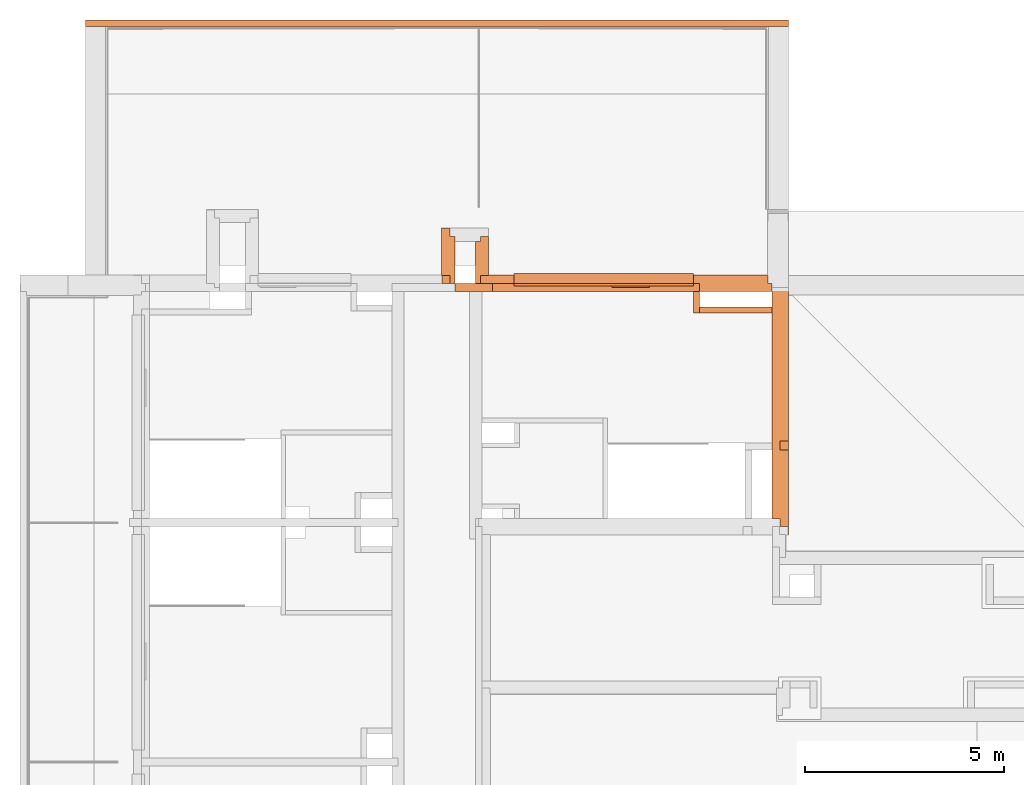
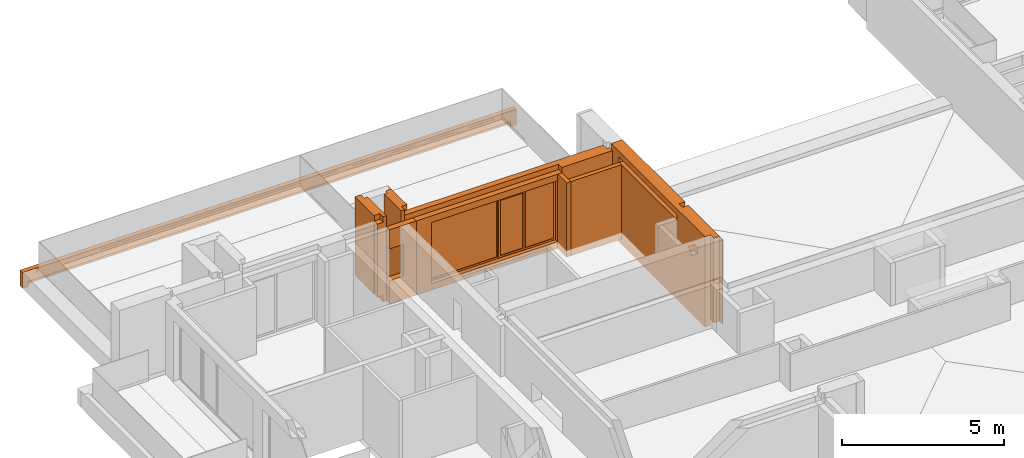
# One storey, part 24 of 30: 9 proxies, 3 openings.
"""IFC2X3 building model written with IfcOpenShell, lengths in millimetres."""

from ifc_helpers import new_model, entity, si_unit, converted_unit, derived_unit, money_unit, direction, frame, origin_with_axes, origin_2d_with_axis, place, context, subcontext, project, spatial, polyline, rectangle, outline, extrude, open_shell, faceted_brep, surface_model, material, material_list, type_object, element, fill, save


model = new_model("IFC2X3")

# Units and contexts
model_context = context("Model", 3, precision=0.01, world=origin_with_axes(), true_north=direction((0.34421633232, 0.938890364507)))
body_context = subcontext(model_context, "Body", "Model", "MODEL_VIEW")
ifc_project = project(units=[si_unit("LENGTHUNIT", "METRE", prefix="MILLI"), si_unit("AREAUNIT", "SQUARE_METRE"), si_unit("VOLUMEUNIT", "CUBIC_METRE"), converted_unit("PLANEANGLEUNIT", "DEGREE", entity("IfcPlaneAngleMeasure", 0.0174532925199), si_unit("PLANEANGLEUNIT", "RADIAN"), dimensions=[0, 0, 0, 0, 0, 0, 0]), si_unit("SOLIDANGLEUNIT", "STERADIAN"), money_unit("USD"), converted_unit("TIMEUNIT", "Year", entity("IfcTimeMeasure", 31556926.0), si_unit("TIMEUNIT", "SECOND"), dimensions=[0, 0, 1, 0, 0, 0, 0]), si_unit("MASSUNIT", "GRAM", prefix="KILO"), si_unit("THERMODYNAMICTEMPERATUREUNIT", "DEGREE_CELSIUS"), si_unit("LUMINOUSINTENSITYUNIT", "LUMEN"), si_unit("ENERGYUNIT", "JOULE", prefix="MEGA"), derived_unit("THERMALCONDUCTANCEUNIT", [(si_unit("POWERUNIT", "WATT"), 1), (si_unit("LENGTHUNIT", "METRE"), -1), (si_unit("THERMODYNAMICTEMPERATUREUNIT", "KELVIN"), -1)]), derived_unit("SPECIFICHEATCAPACITYUNIT", [(si_unit("ENERGYUNIT", "JOULE"), 1), (si_unit("MASSUNIT", "GRAM", prefix="KILO"), -1), (si_unit("THERMODYNAMICTEMPERATUREUNIT", "KELVIN"), -1)]), derived_unit("MASSDENSITYUNIT", [(si_unit("MASSUNIT", "GRAM", prefix="KILO"), 1), (si_unit("VOLUMEUNIT", "CUBIC_METRE"), -1)])], contexts=[model_context])

# Site, building, storey
site_placement = place(None, origin_with_axes())
site = spatial("IfcSite", under=ifc_project, at=site_placement, Name="USTRONIE MORSKIE", CompositionType="ELEMENT")
building_placement = place(site_placement, origin_with_axes())
building = spatial("IfcBuilding", under=site, at=building_placement, Name="Budynek", CompositionType="ELEMENT")
storey_placement = place(building_placement, frame((0.0, 0.0, 16000.0), z_axis=(0.0, 0.0, 1.0), x_axis=(1.0, 0.0, 0.0)))
storey = spatial("IfcBuildingStorey", under=building, at=storey_placement, Name="ANTRESOLA - KOND. TECHNICZNA", CompositionType="ELEMENT", Elevation=16000.0)

# Proxy
ifc_material_1 = material(Name="Beton konstrukcyjny B25")
ifc_material_2 = material(Name="Wełna ELEW")
ifc_material_3 = material(Name="Tynk zewnętrzny")
ifc_material_list_1 = material_list([ifc_material_1, ifc_material_2, ifc_material_3])
building_element_proxy_type_1 = type_object("IfcBuildingElementProxyType", Name="20+20 410", PredefinedType="NOTDEFINED")
proxy_1_placement = place(storey_placement, frame((367067.920919, 738801.199036, -360.0), z_axis=(0.0, 0.0, 1.0), x_axis=(0.0, 1.0, 0.0)))
element("IfcBuildingElementProxy", 1, at=proxy_1_placement, inside=storey, type_object=building_element_proxy_type_1, material=ifc_material_list_1, Name="SZ-01", context=body_context, shape_type="Brep", body=[
    faceted_brep([(100.0, 100.0, 0.0), (100.0, 100.0, 3410.0), (5900.0, 100.0, 3410.0), (5900.0, 100.0, 3200.0), (5800.0, 100.0, 3200.0), (5800.0, 100.0, 0.0), (1819.98043997, 100.0, 3000.0), (5400.0, 100.0, 3000.0), (5400.0, 100.0, 3200.0), (1819.98043997, 100.0, 3200.0), (100.0, -100.0, 0.0), (100.0, -100.0, 3410.0), (5900.0, -100.0, 3410.0), (5900.0, -100.0, 3200.0), (5800.0, -100.0, 3200.0), (5800.0, -100.0, 200.0), (5800.0, -100.0, 115.0), (5800.0, -100.0, 0.0), (1819.98043997, -100.0, 3000.0), (5400.0, -100.0, 3000.0), (5400.0, -100.0, 3200.0), (1819.98043997, -100.0, 3200.0)], [[[0, 1, 2, 3, 4, 5], [6, 7, 8, 9]], [[10, 11, 1, 0]], [[2, 1, 11, 12]], [[12, 13, 3, 2]], [[4, 3, 13, 14]], [[5, 4, 14, 15, 16, 17]], [[17, 10, 0, 5]], [[18, 19, 7, 6]], [[19, 20, 8, 7]], [[20, 21, 9, 8]], [[21, 18, 6, 9]], [[11, 10, 17, 16, 15, 14, 13, 12], [18, 21, 20, 19]]]),
    faceted_brep([(-100.0, -300.0, 205.0), (5800.0, -300.0, 205.0), (5800.0, -300.0, 3200.0), (5900.0, -300.0, 3200.0), (5900.0, -300.0, 3410.0), (2039.98043997, -300.0, 3410.00000179), (2039.98043997, -300.0, 3200.0), (1819.98043997, -300.0, 3200.0), (1819.98043997, -300.0, 3410.00000179), (-100.0, -300.0, 3410.0), (5800.0, -99.9999284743, 205.0), (-100.000013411, -99.9999284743, 205.0), (5800.0, -100.0, 3200.0), (5900.0, -100.0, 3200.0), (5900.0, -100.0, 3410.0), (2039.98043997, -100.0, 3410.00000179), (2039.98043997, -100.0, 3200.0), (1819.98043997, -100.0, 3200.0), (1819.98043997, -100.0, 3410.00000179), (-100.0, -100.0, 3410.0)], [[[0, 1, 2, 3, 4, 5, 6, 7, 8, 9]], [[10, 1, 0, 11]], [[1, 10, 12, 2]], [[12, 13, 3, 2]], [[4, 3, 13, 14]], [[14, 15, 5, 4]], [[16, 6, 5, 15]], [[7, 6, 16, 17]], [[17, 18, 8, 7]], [[9, 8, 18, 19]], [[11, 0, 9, 19]], [[10, 11, 19, 18, 17, 16, 15, 14, 13, 12]]]),
    faceted_brep([(-300.0, -310.0, 205.0), (5800.0, -310.0, 205.0), (5800.0, -310.0, 3200.0), (5900.0, -310.0, 3200.0), (5900.0, -310.0, 3410.0), (2049.98043997, -310.0, 3410.00000179), (2049.98043997, -310.0, 3200.0), (1819.98043997, -310.0, 3200.0), (1819.98043997, -310.0, 3410.00000179), (-300.0, -310.0, 3410.0), (5800.0, -300.0, 205.0), (-300.0, -300.0, 205.0), (5800.0, -300.0, 3200.0), (5900.0, -300.0, 3200.0), (5900.0, -300.0, 3410.0), (2049.98043997, -300.0, 3410.00000179), (2049.98043997, -300.0, 3200.0), (1819.98043997, -300.0, 3200.0), (1819.98043997, -300.0, 3410.00000179), (-300.0, -300.0, 3410.0)], [[[0, 1, 2, 3, 4, 5, 6, 7, 8, 9]], [[10, 1, 0, 11]], [[1, 10, 12, 2]], [[12, 13, 3, 2]], [[4, 3, 13, 14]], [[14, 15, 5, 4]], [[16, 6, 5, 15]], [[7, 6, 16, 17]], [[17, 18, 8, 7]], [[9, 8, 18, 19]], [[11, 0, 9, 19]], [[10, 11, 19, 18, 17, 16, 15, 14, 13, 12]]]),
])

# Proxies, openings
proxy_2_placement = place(storey_placement, frame((367067.920919, 744701.199036, -160.0), z_axis=(0.0, 0.0, 1.0), x_axis=(-1.0, 0.0, 0.0)))
proxy_2 = element("IfcBuildingElementProxy", 2, at=proxy_2_placement, inside=storey, type_object=building_element_proxy_type_1, material=ifc_material_list_1, Name="Œciana-006", context=body_context, shape_type="Brep", body=[
    faceted_brep([(7100.0, -100.000010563, 2800.0), (1910.01916964, -99.9999997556, 2800.0), (1910.01916964, -99.9999997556, 3000.0), (100.0, -100.0, 3000.0), (100.0, -100.0, 0.0), (7100.0, -100.0, 0.0), (7100.0, 100.0, 2800.0), (1910.01916964, 100.0, 2800.0), (1910.01916964, 100.0, 3000.0), (100.0, 100.0, 3000.0), (100.0, 100.0, 0.0), (7100.0, 100.0, 0.0)], [[[0, 1, 2, 3, 4, 5]], [[1, 0, 6, 7]], [[8, 2, 1, 7]], [[2, 8, 9, 3]], [[3, 9, 10, 4]], [[10, 11, 5, 4]], [[6, 0, 5, 11]], [[7, 6, 11, 10, 9, 8]]]),
    faceted_brep([(200.0, -100.0, 239.99999792), (200.0, -300.0, 239.99999792), (200.0, -300.0, 3000.0), (200.0, -100.0, 3000.0), (7410.0, -300.0, 239.99999792), (7410.0, -100.0, 239.99999792), (7410.0, -300.0, 3000.0), (7410.0, -100.0, 3000.0)], [[[0, 1, 2, 3]], [[4, 1, 0, 5]], [[1, 4, 6, 2]], [[2, 6, 7, 3]], [[5, 0, 3, 7]], [[4, 5, 7, 6]]]),
    faceted_brep([(210.0, -300.0, 239.99999792), (210.0, -310.0, 239.99999792), (210.0, -310.0, 3000.0), (210.0, -300.0, 3000.0), (7210.0, -310.0, 239.99999792), (7210.0, -300.0, 239.99999792), (7210.0, -310.0, 3000.0), (7210.0, -300.0, 3000.0)], [[[0, 1, 2, 3]], [[4, 1, 0, 5]], [[1, 4, 6, 2]], [[6, 7, 3, 2]], [[5, 0, 3, 7]], [[4, 5, 7, 6]]]),
])
opening_1_placement = place(proxy_2_placement, frame((4310.01916964, 0.0, 250.0), z_axis=(0.0, 0.0, 1.0), x_axis=(1.0, 0.0, 0.0)))
opening_1 = element("IfcOpeningElement", 3, at=opening_1_placement, cuts=proxy_2, Name="Wz.06", context=body_context, shape_type="SweptSolid", body=[
    extrude(rectangle(XDim=4500.0, YDim=2300.0, at=origin_2d_with_axis()), frame((0.0, -99.9999999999, 1150.0), z_axis=(0.0, -1.0, 0.0), x_axis=(-1.0, 0.0, 0.0)), (0.0, 0.0, 1.0), 620.0),
    extrude(rectangle(XDim=4500.0, YDim=2300.0, at=origin_2d_with_axis()), frame((0.0, -100.0, 1150.0), z_axis=(0.0, 1.0, 0.0), x_axis=(-1.0, 0.0, 0.0)), (0.0, 0.0, 1.0), 610.0),
])
opening_2_placement = place(proxy_2_placement, frame((1135.00958482, 0.0, 160.0), z_axis=(0.0, 0.0, 1.0), x_axis=(1.0, 0.0, 0.0)))
element("IfcOpeningElement", 4, at=opening_2_placement, cuts=proxy_2, Name="Okna-005", context=body_context, shape_type="SweptSolid", body=[
    extrude(outline(polyline([(-925.009584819, 0.0), (925.009584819, 0.0), (925.009584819, 2390.0), (-925.009584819, 2390.0), (-925.009584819, 0.0)])), frame((0.0, -290.0, 0.0), z_axis=(0.0, 1.0, 0.0), x_axis=(-1.0, 0.0, 0.0)), (0.0, 0.0, -1.0), 430.0),
])
building_element_proxy_type_2 = type_object("IfcBuildingElementProxyType", Name="Okno potrójne 23", PredefinedType="NOTDEFINED")
proxy_3_placement = place(opening_1_placement, frame((-2250.0, 0.0, 0.0), z_axis=(0.0, 0.0, 1.0), x_axis=(1.0, 0.0, 0.0)))
proxy_3 = element("IfcBuildingElementProxy", 5, at=proxy_3_placement, inside=storey, type_object=building_element_proxy_type_2, Name="Wz.06", context=body_context, shape_type="SurfaceModel", body=[
    faceted_brep([(4500.0, -100.0, 5.0), (4500.0, -100.0, 30.0), (4500.0, -310.0, 18.9943663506), (4500.0, -310.0, 5.0), (0.0, -100.0, 5.0), (0.0, -100.0, 30.0), (0.0, -310.0, 18.9943663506), (0.0, -340.0, 17.4221329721), (4500.0, -340.0, 17.4221329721), (4500.0, -340.0, 5.0), (0.0, -340.0, 5.0), (0.0, -310.0, 5.0)], [[[0, 1, 2, 3]], [[4, 5, 1, 0]], [[1, 5, 6, 7, 8, 2]], [[3, 2, 8, 9]], [[0, 3, 9, 10, 11, 4]], [[11, 6, 5, 4]], [[10, 7, 6, 11]], [[9, 8, 7, 10]]]),
    faceted_brep([(4500.0, -100.0, 0.0), (4500.0, -100.0, 5.0), (4500.0, -310.0, 5.0), (4500.0, -310.0, 0.0), (0.0, -100.0, 0.0), (0.0, -100.0, 5.0), (0.0, -310.0, 5.0), (0.0, -310.0, 0.0)], [[[0, 1, 2, 3]], [[4, 5, 1, 0]], [[1, 5, 6, 2]], [[3, 2, 6, 7]], [[0, 3, 7, 4]], [[7, 6, 5, 4]]]),
    faceted_brep([(1137.5, -59.9999999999, 2230.0), (1112.5, -59.9999999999, 2230.0), (1112.5, -35.0, 2230.0), (1072.5, -35.0, 2230.0), (1072.5, -100.0, 2230.0), (1137.5, -100.0, 2230.0), (1137.5, -59.9999999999, 70.0), (1112.5, -59.9999999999, 70.0), (1112.5, -35.0, 70.0), (1072.5, -35.0, 70.0), (1072.5, -100.0, 70.0), (1137.5, -100.0, 70.0)], [[[0, 1, 2, 3, 4, 5]], [[1, 0, 6, 7]], [[8, 2, 1, 7]], [[2, 8, 9, 3]], [[9, 10, 4, 3]], [[10, 11, 5, 4]], [[6, 0, 5, 11]], [[7, 6, 11, 10, 9, 8]]]),
    faceted_brep([(2047.5, -35.0, 2230.0), (2047.5, -59.9999999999, 2230.0), (2022.5, -59.9999999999, 2230.0), (2022.5, -100.0, 2230.0), (2087.5, -100.0, 2230.0), (2087.5, -35.0, 2230.0), (2047.5, -35.0, 70.0), (2047.5, -59.9999999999, 70.0), (2022.5, -59.9999999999, 70.0), (2022.5, -100.0, 70.0), (2087.5, -100.0, 70.0), (2087.5, -35.0, 70.0)], [[[0, 1, 2, 3, 4, 5]], [[1, 0, 6, 7]], [[8, 2, 1, 7]], [[2, 8, 9, 3]], [[4, 3, 9, 10]], [[5, 4, 10, 11]], [[6, 0, 5, 11]], [[7, 6, 11, 10, 9, 8]]]),
    faceted_brep([(1137.5, -59.9999999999, 70.0), (1112.5, -59.9999999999, 70.0), (1112.5, -35.0, 70.0), (1072.5, -35.0, 70.0), (1072.5, -100.0, 70.0), (1137.5, -100.0, 70.0), (2022.5, -59.9999999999, 70.0), (2047.5, -59.9999999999, 70.0), (2047.5, -59.9999999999, 45.0), (1112.5, -59.9999999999, 45.0), (1112.5, -35.0, 45.0), (2047.5, -35.0, 45.0), (2047.5, -35.0, 70.0), (2087.5, -35.0, 70.0), (4430.0, -35.0, 70.0), (4500.0, -35.0, 70.0), (4500.0, -35.0, 0.0), (0.0, -35.0, 0.0), (0.0, -35.0, 70.0), (70.0, -35.0, 70.0), (70.0, -100.0, 70.0), (4500.0, -100.0, 70.0), (4430.0, -100.0, 70.0), (2087.5, -100.0, 70.0), (2022.5, -100.0, 70.0), (0.0, -100.0, 70.0), (0.0, -100.0, 0.0), (4500.0, -100.0, 0.0)], [[[0, 1, 2, 3, 4, 5]], [[1, 0, 6, 7, 8, 9]], [[10, 2, 1, 9]], [[11, 12, 13, 14, 15, 16, 17, 18, 19, 3, 2, 10]], [[19, 20, 4, 3]], [[21, 22, 23, 24, 5, 4, 20, 25, 26, 27]], [[6, 0, 5, 24]], [[7, 6, 24, 23, 13, 12]], [[7, 12, 11, 8]], [[11, 10, 9, 8]], [[13, 23, 22, 14]], [[14, 22, 21, 15]], [[15, 21, 27, 16]], [[16, 27, 26, 17]], [[17, 26, 25, 18]], [[18, 25, 20, 19]]]),
    faceted_brep([(2047.5, -35.0, 2230.0), (2047.5, -35.0, 2255.0), (1112.5, -35.0, 2255.0), (1112.5, -35.0, 2230.0), (1072.5, -35.0, 2230.0), (70.0, -35.0, 2230.0), (0.0, -35.0, 2230.0), (0.0, -35.0, 2300.0), (4500.0, -35.0, 2300.0), (4500.0, -35.0, 2230.0), (4430.0, -35.0, 2230.0), (2087.5, -35.0, 2230.0), (2047.5, -59.9999999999, 2230.0), (2047.5, -59.9999999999, 2255.0), (1112.5, -59.9999999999, 2255.0), (1112.5, -59.9999999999, 2230.0), (1137.5, -59.9999999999, 2230.0), (1137.5, -100.0, 2230.0), (1072.5, -100.0, 2230.0), (70.0, -100.0, 2230.0), (0.0, -100.0, 2230.0), (0.0, -100.0, 2300.0), (4500.0, -100.0, 2300.0), (4500.0, -100.0, 2230.0), (4430.0, -100.0, 2230.0), (2087.5, -100.0, 2230.0), (2022.5, -100.0, 2230.0), (2022.5, -59.9999999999, 2230.0)], [[[0, 1, 2, 3, 4, 5, 6, 7, 8, 9, 10, 11]], [[1, 0, 12, 13]], [[2, 1, 13, 14]], [[3, 2, 14, 15]], [[15, 16, 17, 18, 4, 3]], [[4, 18, 19, 5]], [[5, 19, 20, 6]], [[6, 20, 21, 7]], [[7, 21, 22, 8]], [[8, 22, 23, 9]], [[9, 23, 24, 10]], [[10, 24, 25, 11]], [[12, 0, 11, 25, 26, 27]], [[16, 15, 14, 13, 12, 27]], [[16, 27, 26, 17]], [[26, 25, 24, 23, 22, 21, 20, 19, 18, 17]]]),
    faceted_brep([(4430.0, -100.0, 2230.0), (4500.0, -100.0, 2230.0), (4500.0, -35.0, 2230.0), (4430.0, -35.0, 2230.0), (4430.0, -100.0, 70.0), (4500.0, -100.0, 70.0), (4500.0, -35.0, 70.0), (4430.0, -35.0, 70.0)], [[[0, 1, 2, 3]], [[0, 4, 5, 1]], [[1, 5, 6, 2]], [[3, 2, 6, 7]], [[4, 0, 3, 7]], [[5, 4, 7, 6]]]),
    faceted_brep([(70.0, -100.0, 70.0), (0.0, -100.0, 70.0), (0.0, -35.0, 70.0), (70.0, -35.0, 70.0), (70.0, -100.0, 2230.0), (0.0, -100.0, 2230.0), (0.0, -35.0, 2230.0), (70.0, -35.0, 2230.0)], [[[0, 1, 2, 3]], [[0, 4, 5, 1]], [[1, 5, 6, 2]], [[3, 2, 6, 7]], [[4, 0, 3, 7]], [[5, 4, 7, 6]]]),
    surface_model("IfcShellBasedSurfaceModel", [(4430.0, -69.9999999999, 70.0), (4430.0, -69.9999999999, 2230.0), (2087.5, -69.9999999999, 2230.0), (2087.5, -69.9999999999, 70.0)], [open_shell([[[0, 1, 2, 3]]])]),
    surface_model("IfcShellBasedSurfaceModel", [(4430.0, -50.0, 70.0), (2087.5, -50.0, 70.0), (2087.5, -50.0, 2230.0), (4430.0, -50.0, 2230.0)], [open_shell([[[0, 1, 2, 3]]])]),
    faceted_brep([(1982.5, -59.9999999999, 2190.0), (2047.5, -59.9999999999, 2190.0), (2047.5, 5.0, 2190.0), (1982.5, 5.0, 2190.0), (1982.5, -59.9999999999, 110.0), (2047.5, -59.9999999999, 110.0), (2047.5, 5.0, 110.0), (1982.5, 5.0, 110.0)], [[[0, 1, 2, 3]], [[0, 4, 5, 1]], [[1, 5, 6, 2]], [[3, 2, 6, 7]], [[4, 0, 3, 7]], [[5, 4, 7, 6]]]),
    faceted_brep([(1177.5, -59.9999999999, 110.0), (1112.5, -59.9999999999, 110.0), (1112.5, 5.0, 110.0), (1177.5, 5.0, 110.0), (1177.5, -59.9999999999, 2190.0), (1112.5, -59.9999999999, 2190.0), (1112.5, 5.0, 2190.0), (1177.5, 5.0, 2190.0)], [[[0, 1, 2, 3]], [[0, 4, 5, 1]], [[1, 5, 6, 2]], [[3, 2, 6, 7]], [[4, 0, 3, 7]], [[5, 4, 7, 6]]]),
    faceted_brep([(1112.5, -59.9999999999, 45.0), (1112.5, -59.9999999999, 110.0), (1112.5, 5.0, 110.0), (1112.5, 5.0, 45.0), (2047.5, -59.9999999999, 45.0), (2047.5, -59.9999999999, 110.0), (1982.5, -59.9999999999, 110.0), (1177.5, -59.9999999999, 110.0), (1177.5, 5.0, 110.0), (1982.5, 5.0, 110.0), (2047.5, 5.0, 110.0), (2047.5, 5.0, 45.0)], [[[0, 1, 2, 3]], [[0, 4, 5, 6, 7, 1]], [[1, 7, 8, 2]], [[3, 2, 8, 9, 10, 11]], [[4, 0, 3, 11]], [[5, 4, 11, 10]], [[6, 5, 10, 9]], [[7, 6, 9, 8]]]),
    faceted_brep([(2047.5, -59.9999999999, 2255.0), (2047.5, -59.9999999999, 2190.0), (2047.5, 5.0, 2190.0), (2047.5, 5.0, 2255.0), (1112.5, -59.9999999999, 2255.0), (1112.5, -59.9999999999, 2190.0), (1177.5, -59.9999999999, 2190.0), (1982.5, -59.9999999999, 2190.0), (1982.5, 5.0, 2190.0), (1177.5, 5.0, 2190.0), (1112.5, 5.0, 2190.0), (1112.5, 5.0, 2255.0)], [[[0, 1, 2, 3]], [[0, 4, 5, 6, 7, 1]], [[1, 7, 8, 2]], [[3, 2, 8, 9, 10, 11]], [[4, 0, 3, 11]], [[5, 4, 11, 10]], [[6, 5, 10, 9]], [[7, 6, 9, 8]]]),
    surface_model("IfcShellBasedSurfaceModel", [(1982.5, -37.5, 110.0), (1982.5, -37.5, 2190.0), (1177.5, -37.5, 2190.0), (1177.5, -37.5, 110.0)], [open_shell([[[0, 1, 2, 3]]])]),
    surface_model("IfcShellBasedSurfaceModel", [(1982.5, -17.4999999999, 110.0), (1177.5, -17.4999999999, 110.0), (1177.5, -17.4999999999, 2190.0), (1982.5, -17.4999999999, 2190.0)], [open_shell([[[0, 1, 2, 3]]])]),
    surface_model("IfcShellBasedSurfaceModel", [(1072.5, -69.9999999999, 70.0), (1072.5, -69.9999999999, 2230.0), (70.0, -69.9999999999, 2230.0), (70.0, -69.9999999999, 70.0)], [open_shell([[[0, 1, 2, 3]]])]),
    surface_model("IfcShellBasedSurfaceModel", [(1072.5, -50.0, 70.0), (70.0, -50.0, 70.0), (70.0, -50.0, 2230.0), (1072.5, -50.0, 2230.0)], [open_shell([[[0, 1, 2, 3]]])]),
])
fill(opening_1, proxy_3)

# Proxies
ifc_material_4 = material(Name="Bloczki silikatowe")
building_element_proxy_type_3 = type_object("IfcBuildingElementProxyType", Name="Bloczki silikatowe 150", PredefinedType="NOTDEFINED")
proxy_4_placement = place(storey_placement, frame((365082.901749, 744701.199036, -160.0), z_axis=(0.0, 0.0, 1.0), x_axis=(0.0, -1.0, 0.0)))
element("IfcBuildingElementProxy", 6, at=proxy_4_placement, inside=storey, type_object=building_element_proxy_type_3, material=ifc_material_4, Name="SW-03", context=body_context, shape_type="Brep", body=[
    faceted_brep([(650.0, -75.0, 2800.0), (650.0, 75.0, 2800.0), (100.0, 75.0, 2800.0), (100.0, -75.0, 2800.0), (650.0, -75.0, 0.0), (650.0, 75.0, 0.0), (100.0, 75.0, 0.0), (100.0, -75.0, 0.0)], [[[0, 1, 2, 3]], [[1, 0, 4, 5]], [[1, 5, 6, 2]], [[7, 3, 2, 6]], [[4, 0, 3, 7]], [[5, 4, 7, 6]]]),
])
proxy_5_placement = place(storey_placement, frame((365082.901749, 744126.199036, -160.0), z_axis=(0.0, 0.0, 1.0), x_axis=(1.0, 0.0, 0.0)))
element("IfcBuildingElementProxy", 7, at=proxy_5_placement, inside=storey, type_object=building_element_proxy_type_3, material=ifc_material_4, Name="SW-03", context=body_context, shape_type="Brep", body=[
    faceted_brep([(1885.01916964, -75.0, 2800.0), (1885.01916964, 75.0, 2800.0), (75.0, 75.0, 2800.0), (75.0, -75.0, 2800.0), (1885.01916964, -75.0, 0.0), (1885.01916964, 75.0, 0.0), (75.0, 75.0, 0.0), (75.0, -75.0, 0.0)], [[[0, 1, 2, 3]], [[1, 0, 4, 5]], [[1, 5, 6, 2]], [[7, 3, 2, 6]], [[4, 0, 3, 7]], [[5, 4, 7, 6]]]),
])

# Proxy, opening
building_element_proxy_type_4 = type_object("IfcBuildingElementProxyType", Name="Beton konstrukcyjny B25 200", PredefinedType="NOTDEFINED")
proxy_6_placement = place(storey_placement, frame((359657.920919, 744701.199036, -160.0), z_axis=(0.0, 0.0, 1.0), x_axis=(-1.0, 0.0, 0.0)))
proxy_6 = element("IfcBuildingElementProxy", 8, at=proxy_6_placement, inside=storey, type_object=building_element_proxy_type_4, material=ifc_material_1, Name="SW-01", context=body_context, shape_type="Brep", body=[
    faceted_brep([(639.999170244, -100.0, 0.0), (639.999170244, -100.000012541, 2800.0), (-310.0, -100.000010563, 2800.0), (-310.0, -100.0, 0.0), (639.999170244, 100.0, 0.0), (639.999170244, 100.0, 2800.0), (-310.0, 100.0, 2800.0), (-310.0, 100.0, 0.0)], [[[0, 1, 2, 3]], [[4, 5, 1, 0]], [[5, 6, 2, 1]], [[3, 2, 6, 7]], [[3, 7, 4, 0]], [[7, 6, 5, 4]]]),
])
opening_3_placement = place(proxy_6_placement, frame((390.0, 0.0, 880.0), z_axis=(0.0, 0.0, 1.0), x_axis=(1.0, 0.0, 0.0)))
element("IfcOpeningElement", 9, at=opening_3_placement, cuts=proxy_6, Name="R.01", context=body_context, shape_type="SweptSolid", body=[
    extrude(rectangle(XDim=500.0, YDim=1200.0, at=origin_2d_with_axis()), frame((0.0, 100.0, 600.0), z_axis=(0.0, -1.0, 0.0), x_axis=(1.0, 0.0, 0.0)), (0.0, 0.0, -1.0), 200.0),
    extrude(rectangle(XDim=500.0, YDim=1200.0, at=origin_2d_with_axis()), frame((0.0, 100.0, 600.0), z_axis=(0.0, 1.0, 0.0), x_axis=(1.0, 0.0, 0.0)), (0.0, 0.0, -1.0), 200.0),
])

# Proxies
ifc_material_list_2 = material_list([ifc_material_3, ifc_material_2, ifc_material_4])
building_element_proxy_type_5 = type_object("IfcBuildingElementProxyType", Name="12+20 330", PredefinedType="NOTDEFINED")
proxy_7_placement = place(storey_placement, frame((358897.921749, 744701.199036, -160.0), z_axis=(0.0, 0.0, 1.0), x_axis=(0.0, 1.0, 0.0)))
element("IfcBuildingElementProxy", 10, at=proxy_7_placement, inside=storey, type_object=building_element_proxy_type_5, material=ifc_material_list_2, Name="Ściana-009", context=body_context, shape_type="Brep", body=[
    faceted_brep([(300.0, 200.0, 239.99999792), (549.999148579, 200.0, 239.99999792), (1479.99914858, 200.0, 239.99999792), (1479.99914858, 200.0, 3210.0), (310.0, 200.0, 3210.0), (310.0, 200.0, 3000.0), (300.0, 200.0, 3000.0), (549.999148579, 210.0, 239.99999792), (300.0, 210.0, 239.99999792), (1479.99914858, 210.0, 239.99999792), (1479.99914858, 210.0, 3210.0), (310.0, 210.0, 3210.0), (310.0, 210.0, 3000.0), (300.0, 210.0, 3000.0)], [[[0, 1, 2, 3, 4, 5, 6]], [[7, 1, 0, 8]], [[1, 7, 9, 2]], [[2, 9, 10, 3]], [[10, 11, 4, 3]], [[12, 5, 4, 11]], [[13, 6, 5, 12]], [[8, 0, 6, 13]], [[7, 8, 13, 12, 11, 10, 9]]]),
    faceted_brep([(100.0, 0.0, 239.99999792), (1469.99914858, 0.0, 239.99999792), (1469.99914858, 0.0, 3210.0), (300.0, 0.0, 3210.0), (300.0, 0.0, 3000.0), (100.0, 0.0, 3000.0), (100.0, 200.0, 239.99999792), (1469.99914858, 200.0, 239.99999792), (1469.99914858, 200.0, 3210.0), (300.0, 200.0, 3210.0), (300.0, 200.0, 3000.0), (100.0, 200.0, 3000.0)], [[[0, 1, 2, 3, 4, 5]], [[1, 0, 6, 7]], [[1, 7, 8, 2]], [[8, 9, 3, 2]], [[10, 4, 3, 9]], [[11, 5, 4, 10]], [[6, 0, 5, 11]], [[6, 11, 10, 9, 8, 7]]]),
    faceted_brep([(1269.99914858, 0.0, 3210.0), (100.0, 0.0, 3210.0), (100.0, -120.0, 3210.0), (1269.99914858, -120.0, 3210.0), (100.0, 0.0, 0.0), (1269.99914858, 0.0, 0.0), (100.0, -120.0, 0.0), (1269.99914858, -120.0, 0.0)], [[[0, 1, 2, 3]], [[4, 1, 0, 5]], [[6, 2, 1, 4]], [[3, 2, 6, 7]], [[0, 3, 7, 5]], [[7, 6, 4, 5]]]),
])
ifc_material_list_3 = material_list([ifc_material_4, ifc_material_2, ifc_material_3])
proxy_8_placement = place(storey_placement, frame((359657.920919, 744701.199036, -160.0), z_axis=(0.0, 0.0, 1.0), x_axis=(0.0, 1.0, 0.0)))
element("IfcBuildingElementProxy", 11, at=proxy_8_placement, inside=storey, type_object=building_element_proxy_type_5, material=ifc_material_list_3, Name="Ściana-009", context=body_context, shape_type="Brep", body=[
    faceted_brep([(1149.99914858, 120.0, 3210.0), (100.0, 120.0, 3210.0), (100.0, 0.0, 3210.0), (1149.99914858, 0.0, 3210.0), (100.0, 120.0, 0.0), (1149.99914858, 120.0, 0.0), (100.0, 0.0, 0.0), (1149.99914858, 0.0, 0.0)], [[[0, 1, 2, 3]], [[4, 1, 0, 5]], [[6, 2, 1, 4]], [[3, 2, 6, 7]], [[0, 3, 7, 5]], [[7, 6, 4, 5]]]),
    faceted_brep([(1269.99914858, -200.0, 239.99999792), (1269.99914858, -200.0, 3210.0), (300.0, -200.0, 3210.0), (300.0, -200.0, 239.99999792), (1269.99914858, 0.0, 239.99999792), (1269.99914858, 0.0, 3210.0), (300.0, 0.0, 3210.0), (300.0, 0.0, 239.99999792)], [[[0, 1, 2, 3]], [[0, 4, 5, 1]], [[5, 6, 2, 1]], [[7, 3, 2, 6]], [[4, 0, 3, 7]], [[4, 7, 6, 5]]]),
    faceted_brep([(1469.99914858, -210.0, 239.99999792), (1469.99914858, -210.0, 3210.0), (310.0, -210.0, 3210.0), (310.0, -210.0, 239.99999792), (1469.99914858, -200.0, 239.99999792), (1469.99914858, -200.0, 3210.0), (310.0, -200.0, 3210.0), (310.0, -200.0, 239.99999792)], [[[0, 1, 2, 3]], [[0, 4, 5, 1]], [[5, 6, 2, 1]], [[7, 3, 2, 6]], [[4, 0, 3, 7]], [[4, 7, 6, 5]]]),
])
ifc_material_5 = material(Name="Tynk wewnętrzny")
ifc_material_list_4 = material_list([ifc_material_5, ifc_material_1, ifc_material_5])
building_element_proxy_type_6 = type_object("IfcBuildingElementProxyType", Name="15+2xTYNK 170", PredefinedType="NOTDEFINED")
proxy_9_placement = place(storey_placement, frame((349967.920919, 751316.201689, -360.0), z_axis=(0.0, 0.0, 1.0), x_axis=(1.0, 0.0, 0.0)))
element("IfcBuildingElementProxy", 12, at=proxy_9_placement, inside=storey, type_object=building_element_proxy_type_6, material=ifc_material_list_4, Name="Œciana-006", context=body_context, shape_type="Brep", body=[
    faceted_brep([(17410.0, 85.0, 600.0), (-210.0, 85.0, 600.0), (-210.0, 75.0, 600.0), (17410.0, 75.0, 600.0), (17410.0, 85.0, 0.0), (-210.0, 85.0, 0.0), (-210.0, 75.0, 0.0), (17410.0, 75.0, 0.0)], [[[0, 1, 2, 3]], [[4, 5, 1, 0]], [[2, 1, 5, 6]], [[3, 2, 6, 7]], [[3, 7, 4, 0]], [[7, 6, 5, 4]]]),
    faceted_brep([(0.0, 75.0, 199.99999792), (0.0, 75.0, -2.07957384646e-06), (-210.0, 75.0, 0.0), (-210.0, 75.0, 600.0), (17410.0, 75.0, 600.0), (17410.0, 75.0, 0.0), (17200.0, 75.0, -2.07957384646e-06), (17200.0, 75.0, 199.99999792), (0.0, -75.0, 199.99999792), (0.0, -75.0, -2.07957384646e-06), (-210.0, -75.0, 0.0), (-210.0, -75.0, 600.0), (17410.0, -75.0, 600.0), (17410.0, -75.0, 0.0), (17200.0, -75.0, -2.07957384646e-06), (17200.0, -75.0, 199.99999792)], [[[0, 1, 2, 3, 4, 5, 6, 7]], [[1, 0, 8, 9]], [[1, 9, 10, 2]], [[10, 11, 3, 2]], [[12, 4, 3, 11]], [[4, 12, 13, 5]], [[14, 6, 5, 13]], [[7, 6, 14, 15]], [[0, 7, 15, 8]], [[15, 14, 13, 12, 11, 10, 9, 8]]]),
    faceted_brep([(16910.0, -85.0, 439.99999792), (16910.0, -75.0, 439.99999792), (16910.0, -75.0, 600.0), (16910.0, -85.0, 600.0), (290.0, -75.0, 439.99999792), (290.0, -85.0, 439.99999792), (290.0, -75.0, 600.0), (290.0, -85.0, 600.0)], [[[0, 1, 2, 3]], [[4, 1, 0, 5]], [[1, 4, 6, 2]], [[3, 2, 6, 7]], [[5, 0, 3, 7]], [[4, 5, 7, 6]]]),
])

save(model, "model.ifc")
